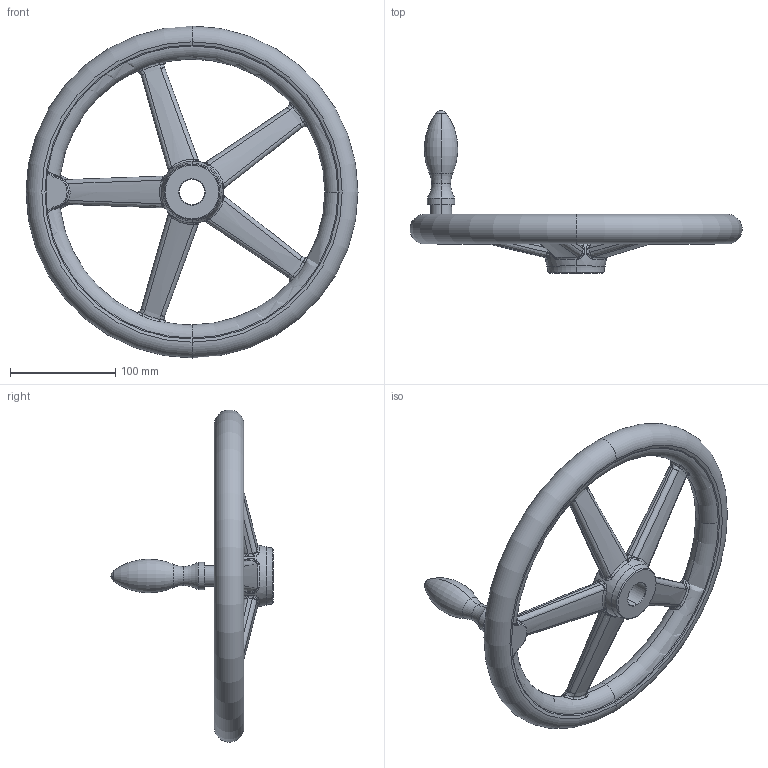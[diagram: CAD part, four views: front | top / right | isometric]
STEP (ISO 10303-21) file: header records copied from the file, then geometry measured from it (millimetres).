
FILE_DESCRIPTION (( 'STEP AP203' ), '1' );
FILE_NAME ('din950_f4_315x24.step', '2010-03-23T10:34:05', ( '_' ), ( '_' ), 'SwSTEP 2.0', 'SolidWorks 2010', '' );
FILE_SCHEMA (( 'CONFIG_CONTROL_DESIGN' ));
Length unit declared in the file: millimetre
Products named in the file (1): din950_f4_315x24
Bounding box: 314.89 x 154.5 x 314.89 mm (x, y, z)
Volume: 898853.9 mm3; surface area: 135541.7 mm2
Topology: 1 solids, 1 shells, 281 faces, 696 edges, 364 vertices
Faces by surface type: bspline 208, torus 26, cone 17, plane 16, cylinder 12, sphere 2
Entity records: 51809 total; most frequent: CARTESIAN_POINT 46612, ORIENTED_EDGE 1304, DIRECTION 667, EDGE_CURVE 652, B_SPLINE_CURVE_WITH_KNOTS 379, VERTEX_POINT 364, AXIS2_PLACEMENT_3D 320, EDGE_LOOP 284
